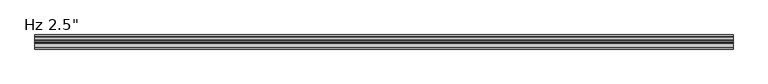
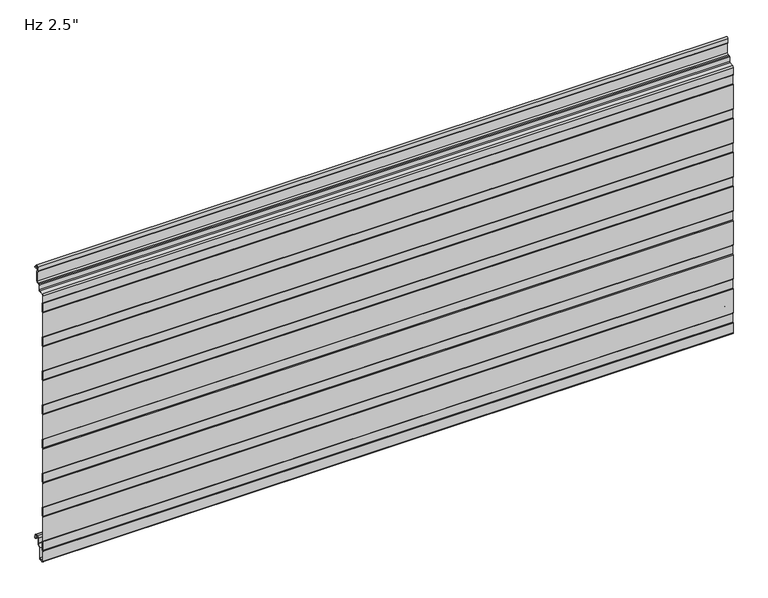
"""IFC4 building model written with IfcOpenShell, lengths in millimetres: plate geometry."""

from ifc_helpers import new_model, si_unit, point, frame, frame_2d, origin, place, context, project, spatial, polyline, circle_curve, trimmed, segment, composite_curve, outline, extrude, source, transform, mapped, element, save


def plate_6fa7aaa8(model_context):
    return source(origin(), model_context, "Body", "SweptSolid", [
        extrude(outline(composite_curve([segment(trimmed(circle_curve(frame_2d((-62.0998717, -10.6415934)), 1.3998661), [point((-63.4997378, -10.6415934))], [point((-63.0324955, -9.5976403))], False, "CARTESIAN"), True, "CONTINUOUS"), segment(polyline([(-63.0324955, -9.5976403), (-62.2997693, -8.8649141), (-62.2997693, 10.0260713), (-63.0327349, 10.7590369)]), True, "CONTINUOUS"), segment(trimmed(circle_curve(frame_2d((-62.1000237, 11.8030877)), 1.3999972), [point((-63.0327349, 10.7590369))], [point((-63.5, 11.810741))], False, "CARTESIAN"), True, "CONTINUOUS"), segment(polyline([(-63.5, 11.810741), (-63.5, 65.5582542)]), True, "CONTINUOUS"), segment(trimmed(circle_curve(frame_2d((-62.1000028, 65.5582542)), 1.3999972), [point((-63.5, 65.5582542))], [point((-63.032714, 66.602305))], False, "CARTESIAN"), True, "CONTINUOUS"), segment(polyline([(-63.032714, 66.602305), (-62.2997693, 67.3352497), (-62.2997693, 86.2259189), (-63.0327349, 86.9588845)]), True, "CONTINUOUS"), segment(trimmed(circle_curve(frame_2d((-62.1000237, 88.0029353)), 1.3999972), [point((-63.0327349, 86.9588845))], [point((-63.5, 88.0105886))], False, "CARTESIAN"), True, "CONTINUOUS"), segment(polyline([(-63.5, 88.0105886), (-63.5, 141.7581018)]), True, "CONTINUOUS"), segment(trimmed(circle_curve(frame_2d((-62.1000028, 141.7581018)), 1.3999972), [point((-63.5, 141.7581018))], [point((-63.032714, 142.8021526))], False, "CARTESIAN"), True, "CONTINUOUS"), segment(polyline([(-63.032714, 142.8021526), (-62.2997693, 143.5350973), (-62.2997693, 162.4257665), (-63.0327349, 163.1587321)]), True, "CONTINUOUS"), segment(trimmed(circle_curve(frame_2d((-62.1000237, 164.2027829)), 1.3999972), [point((-63.0327349, 163.1587321))], [point((-63.5, 164.2104362))], False, "CARTESIAN"), True, "CONTINUOUS"), segment(polyline([(-63.5, 164.2104362), (-63.5, 217.9579494)]), True, "CONTINUOUS"), segment(trimmed(circle_curve(frame_2d((-62.1000028, 217.9579494)), 1.3999972), [point((-63.5, 217.9579494))], [point((-63.032714, 219.0020002))], False, "CARTESIAN"), True, "CONTINUOUS"), segment(polyline([(-63.032714, 219.0020002), (-62.2997693, 219.7349449), (-62.2997693, 238.6256141), (-63.0327349, 239.3585797)]), True, "CONTINUOUS"), segment(trimmed(circle_curve(frame_2d((-62.1000237, 240.4026305)), 1.3999972), [point((-63.0327349, 239.3585797))], [point((-63.5, 240.4102838))], False, "CARTESIAN"), True, "CONTINUOUS"), segment(polyline([(-63.5, 240.4102838), (-63.5, 294.157797)]), True, "CONTINUOUS"), segment(trimmed(circle_curve(frame_2d((-62.1000028, 294.157797)), 1.3999972), [point((-63.5, 294.157797))], [point((-63.032714, 295.2018478))], False, "CARTESIAN"), True, "CONTINUOUS"), segment(polyline([(-63.032714, 295.2018478), (-62.2997693, 295.9347925), (-62.2997693, 314.8254617), (-63.0327349, 315.5584273)]), True, "CONTINUOUS"), segment(trimmed(circle_curve(frame_2d((-62.1000237, 316.6024781)), 1.3999972), [point((-63.0327349, 315.5584273))], [point((-63.5, 316.6101314))], False, "CARTESIAN"), True, "CONTINUOUS"), segment(polyline([(-63.5, 316.6101314), (-63.5, 370.3576446)]), True, "CONTINUOUS"), segment(trimmed(circle_curve(frame_2d((-62.1000028, 370.3576446)), 1.3999972), [point((-63.5, 370.3576446))], [point((-63.032714, 371.4016954))], False, "CARTESIAN"), True, "CONTINUOUS"), segment(polyline([(-63.032714, 371.4016954), (-62.2997693, 372.1346401), (-62.2997693, 391.0253093), (-63.0327349, 391.7582749)]), True, "CONTINUOUS"), segment(trimmed(circle_curve(frame_2d((-62.1000237, 392.8023257)), 1.3999972), [point((-63.0327349, 391.7582749))], [point((-63.5, 392.809979))], False, "CARTESIAN"), True, "CONTINUOUS"), segment(polyline([(-63.5, 392.809979), (-63.5, 446.5574922)]), True, "CONTINUOUS"), segment(trimmed(circle_curve(frame_2d((-62.1000028, 446.5574922)), 1.3999972), [point((-63.5, 446.5574922))], [point((-63.032714, 447.601543))], False, "CARTESIAN"), True, "CONTINUOUS"), segment(polyline([(-63.032714, 447.601543), (-62.2997693, 448.3344877), (-62.2997693, 467.2251569), (-63.0327349, 467.9581225)]), True, "CONTINUOUS"), segment(trimmed(circle_curve(frame_2d((-62.1000237, 469.0021733)), 1.3999972), [point((-63.0327349, 467.9581225))], [point((-63.5, 469.0098266))], False, "CARTESIAN"), True, "CONTINUOUS"), segment(polyline([(-63.5, 469.0098266), (-63.5, 522.7573398)]), True, "CONTINUOUS"), segment(trimmed(circle_curve(frame_2d((-62.1000028, 522.7573398)), 1.3999972), [point((-63.5, 522.7573398))], [point((-63.032714, 523.8013906))], False, "CARTESIAN"), True, "CONTINUOUS"), segment(polyline([(-63.032714, 523.8013906), (-62.2997693, 524.5343353), (-62.2997693, 543.4250045), (-63.0327349, 544.1579701)]), True, "CONTINUOUS"), segment(trimmed(circle_curve(frame_2d((-62.1000237, 545.2020209)), 1.3999972), [point((-63.0327349, 544.1579701))], [point((-63.4990984, 545.2528361))], False, "CARTESIAN"), True, "CONTINUOUS"), segment(polyline([(-63.4990984, 545.2528361), (-63.4990984, 561.1384359)]), True, "CONTINUOUS"), segment(trimmed(circle_curve(frame_2d((-60.5491043, 561.1384359)), 2.9499941), [point((-63.4990984, 561.1384359))], [point((-60.8062132, 564.0772044))], False, "CARTESIAN"), True, "CONTINUOUS"), segment(polyline([(-60.8062132, 564.0772044), (-52.3419168, 564.8177344)]), True, "CONTINUOUS"), segment(trimmed(circle_curve(frame_2d((-52.5188426, 566.8400056)), 2.0299959), [point((-52.3419168, 564.8177344))], [point((-50.4914567, 566.9429135))], True, "CARTESIAN"), True, "CONTINUOUS"), segment(polyline([(-50.4914567, 566.9429135), (-50.4914567, 577.0595941)]), True, "CONTINUOUS"), segment(trimmed(circle_curve(frame_2d((-48.5423033, 577.0595941)), 1.9491534), [point((-50.4914567, 577.0595941))], [point((-48.5423033, 579.0087475))], False, "CARTESIAN"), True, "CONTINUOUS"), segment(polyline([(-48.5423033, 579.0087475), (-45.4009036, 579.0087475)]), True, "CONTINUOUS"), segment(trimmed(circle_curve(frame_2d((-45.4009036, 582.0087415)), 2.999994), [point((-45.4009036, 579.0087475))], [point((-42.4009096, 582.0087415))], True, "CARTESIAN"), True, "CONTINUOUS"), segment(polyline([(-42.4009096, 582.0087415), (-42.4009096, 602.6122013), (-43.6467537, 603.3314897)]), True, "CONTINUOUS"), segment(trimmed(circle_curve(frame_2d((-42.9217552, 604.587224)), 1.4499971), [point((-43.6467537, 603.3314897))], [point((-44.3709833, 604.6344401))], False, "CARTESIAN"), True, "CONTINUOUS"), segment(polyline([(-44.3709833, 604.6344401), (-44.026075, 613.3463704)]), True, "CONTINUOUS"), segment(trimmed(circle_curve(frame_2d((-40.9266291, 613.2236622)), 3.1018739), [point((-44.026075, 613.3463704))], [point((-37.8275082, 613.3543204))], False, "CARTESIAN"), True, "CONTINUOUS"), segment(polyline([(-37.8275082, 613.3543204), (-37.5837214, 609.3587)]), True, "CONTINUOUS"), segment(trimmed(circle_curve(frame_2d((-36.7434917, 609.4099653)), 0.8417922), [point((-37.5837214, 609.3587))], [point((-36.7729389, 608.5686884))], True, "CARTESIAN"), True, "CONTINUOUS"), segment(polyline([(-36.7729389, 608.5686884), (-34.0025061, 608.5686884), (-34.0025061, 607.5686884), (-36.7870527, 607.5686884)]), True, "CONTINUOUS"), segment(trimmed(circle_curve(frame_2d((-36.7434917, 609.4099653)), 1.8417922), [point((-36.7870527, 607.5686884))], [point((-38.5818653, 609.2977997))], False, "CARTESIAN"), True, "CONTINUOUS"), segment(polyline([(-38.5818653, 609.2977997), (-38.8262802, 613.3037148)]), True, "CONTINUOUS"), segment(trimmed(circle_curve(frame_2d((-40.9266291, 613.2236622)), 2.1018739), [point((-38.8262802, 613.3037148))], [point((-43.0268578, 613.306811))], True, "CARTESIAN"), True, "CONTINUOUS"), segment(polyline([(-43.0268578, 613.306811), (-43.3821181, 604.3334028), (-41.4009096, 603.1895515), (-41.4009096, 582.0087415)]), True, "CONTINUOUS"), segment(trimmed(circle_curve(frame_2d((-45.4009036, 582.0087415)), 3.999994), [point((-41.4009096, 582.0087415))], [point((-45.4009036, 578.0087475))], False, "CARTESIAN"), True, "CONTINUOUS"), segment(polyline([(-45.4009036, 578.0087475), (-48.5423033, 578.0087475)]), True, "CONTINUOUS"), segment(trimmed(circle_curve(frame_2d((-48.5423033, 577.0595941)), 0.9491534), [point((-48.5423033, 578.0087475))], [point((-49.4914567, 577.0595941))], True, "CARTESIAN"), True, "CONTINUOUS"), segment(polyline([(-49.4914567, 577.0595941), (-49.4914567, 566.9657441)]), True, "CONTINUOUS"), segment(trimmed(circle_curve(frame_2d((-52.5188426, 566.8400056)), 3.0299959), [point((-49.4914567, 566.9657441))], [point((-52.254761, 563.8215397))], False, "CARTESIAN"), True, "CONTINUOUS"), segment(polyline([(-52.254761, 563.8215397), (-60.7190575, 563.0810097)]), True, "CONTINUOUS"), segment(trimmed(circle_curve(frame_2d((-60.5491043, 561.1384359)), 1.9499941), [point((-60.7190575, 563.0810097))], [point((-62.4990984, 561.1384359))], True, "CARTESIAN"), True, "CONTINUOUS"), segment(polyline([(-62.4990984, 561.1384359), (-62.4990984, 545.0396538), (-61.2997693, 543.8403247), (-61.2997693, 524.1209122), (-62.5, 522.9206815), (-62.5, 468.8405497), (-61.2997693, 467.640319), (-61.2997693, 447.9209065), (-62.5, 446.7206758), (-62.5, 392.640544), (-61.2997693, 391.4403133), (-61.2997693, 371.7209008), (-62.5, 370.5206701), (-62.5, 316.4405383), (-61.2997693, 315.2403076), (-61.2997693, 295.5208951), (-62.5, 294.3206644), (-62.5, 240.2405326), (-61.2997693, 239.0403019), (-61.2997693, 219.3208894), (-62.5, 218.1206587), (-62.5, 164.0405269), (-61.2997693, 162.8402962), (-61.2997693, 143.1208837), (-62.5, 141.920653), (-62.5, 87.8405213), (-61.2997693, 86.6402905), (-61.2997693, 66.920878), (-62.5, 65.7206473), (-62.5, 11.6405156), (-61.2997693, 10.4402849), (-61.2997693, -9.2791277), (-62.4997378, -10.4790962), (-62.4997378, -32.4521176)]), True, "CONTINUOUS"), segment(trimmed(circle_curve(frame_2d((-59.9294985, -32.4521176)), 2.5702393), [point((-62.4997378, -32.4521176))], [point((-59.7054129, -35.0125699))], True, "CARTESIAN"), True, "CONTINUOUS"), segment(polyline([(-59.7054129, -35.0125699), (-54.723592, -34.5765709)]), True, "CONTINUOUS"), segment(trimmed(circle_curve(frame_2d((-55.2049826, -31.9198392)), 2.6999926), [point((-54.723592, -34.5765709))], [point((-52.50499, -31.9198392))], True, "CARTESIAN"), True, "CONTINUOUS"), segment(polyline([(-52.50499, -31.9198392), (-52.50499, -9.8247096), (-47.0029189, -4.3226385)]), True, "CONTINUOUS"), segment(trimmed(circle_curve(frame_2d((-48.2049966, -3.1205608)), 1.6999946), [point((-47.0029189, -4.3226385))], [point((-46.505002, -3.1205608))], True, "CARTESIAN"), True, "CONTINUOUS"), segment(polyline([(-46.505002, -3.1205608), (-46.505002, 8.6903283)]), True, "CONTINUOUS"), segment(trimmed(circle_curve(frame_2d((-43.1550067, 8.6903283)), 3.3499953), [point((-46.505002, 8.6903283))], [point((-43.1550067, 12.0403236))], False, "CARTESIAN"), True, "CONTINUOUS"), segment(polyline([(-43.1550067, 12.0403236), (-38.7550155, 12.0403236)]), True, "CONTINUOUS"), segment(trimmed(circle_curve(frame_2d((-38.7550155, 8.6903283)), 3.3499953), [point((-38.7550155, 12.0403236))], [point((-35.4050202, 8.6903283))], False, "CARTESIAN"), True, "CONTINUOUS"), segment(polyline([(-35.4050202, 8.6903283), (-35.4050202, 5.9912173), (-34.0065413, 5.9912173), (-34.0065413, 2.2328239)]), True, "CONTINUOUS"), segment(trimmed(circle_curve(frame_2d((-35.206538, 2.2313092)), 1.1999976), [point((-34.0065413, 2.2328239))], [point((-35.1760161, 1.0316999))], False, "CARTESIAN"), True, "CONTINUOUS"), segment(trimmed(circle_curve(frame_2d((-35.206538, 2.2313092)), 1.1999976), [point((-35.1760161, 1.0316999))], [point((-36.4050202, 2.1710221))], False, "CARTESIAN"), True, "CONTINUOUS"), segment(polyline([(-36.4050202, 2.1710221), (-36.4050202, 8.6903283)]), True, "CONTINUOUS"), segment(trimmed(circle_curve(frame_2d((-38.7550155, 8.6903283)), 2.3499953), [point((-36.4050202, 8.6903283))], [point((-38.7550155, 11.0403236))], True, "CARTESIAN"), True, "CONTINUOUS"), segment(polyline([(-38.7550155, 11.0403236), (-43.1550067, 11.0403236)]), True, "CONTINUOUS"), segment(trimmed(circle_curve(frame_2d((-43.1550067, 8.6903283)), 2.3499953), [point((-43.1550067, 11.0403236))], [point((-45.505002, 8.6903283))], True, "CARTESIAN"), True, "CONTINUOUS"), segment(polyline([(-45.505002, 8.6903283), (-45.505002, -3.1205608)]), True, "CONTINUOUS"), segment(trimmed(circle_curve(frame_2d((-48.2049966, -3.1205608)), 2.6999946), [point((-45.505002, -3.1205608))], [point((-46.2958121, -5.0297453))], False, "CARTESIAN"), True, "CONTINUOUS"), segment(polyline([(-46.2958121, -5.0297453), (-51.1242296, -9.8581627)]), True, "CONTINUOUS"), segment(trimmed(circle_curve(frame_2d((-50.2049926, -10.7773997)), 1.2999974), [point((-51.1242296, -9.8581627))], [point((-51.50499, -10.7773997))], True, "CARTESIAN"), True, "CONTINUOUS"), segment(polyline([(-51.50499, -10.7773997), (-51.50499, -31.9198392)]), True, "CONTINUOUS"), segment(trimmed(circle_curve(frame_2d((-55.2049826, -31.9198392)), 3.6999926), [point((-51.50499, -31.9198392))], [point((-54.5941815, -35.5690675))], False, "CARTESIAN"), True, "CONTINUOUS"), segment(polyline([(-54.5941815, -35.5690675), (-59.6182281, -36.008762)]), True, "CONTINUOUS"), segment(trimmed(circle_curve(frame_2d((-59.9294985, -32.4521176)), 3.5702393), [point((-59.6182281, -36.008762))], [point((-63.4997378, -32.4521176))], False, "CARTESIAN"), True, "CONTINUOUS"), segment(polyline([(-63.4997378, -32.4521176), (-63.4997378, -10.6415934)]), True, "CONTINUOUS")], self_intersect=False)), frame((-730.0, 0.0, 0.0), z_axis=(1.0, 0.0, 0.0), x_axis=(0.0, 1.0, 0.0)), (0.0, 0.0, 1.0), 1460.0),
    ])


if __name__ == "__main__":
    model = new_model("IFC4")
    model_context = context("Model", 3, world=origin())
    ifc_project = project(units=[si_unit("LENGTHUNIT", "METRE", prefix="MILLI")], contexts=[model_context])
    site = spatial("IfcSite", under=ifc_project)
    building = spatial("IfcBuilding", under=site)
    placement = place(None, origin())
    plate_shape = plate_6fa7aaa8(model_context)
    element("IfcPlate", 1, ObjectType="KIP-24-Karrier-KP-R19-CP-Hz-SL3-8in_SL : Hz 2.5\"", at=placement, inside=building, context=model_context, shape_type="MappedRepresentation", body=[
        mapped(plate_shape, transform((0.0, 0.0, 0.0), x_axis=(1.0, 0.0, 0.0), y_axis=(0.0, 1.0, 0.0), z_axis=(0.0, 0.0, 1.0))),
    ])
    save(model, "model.ifc")
